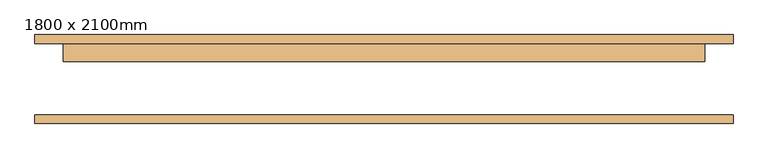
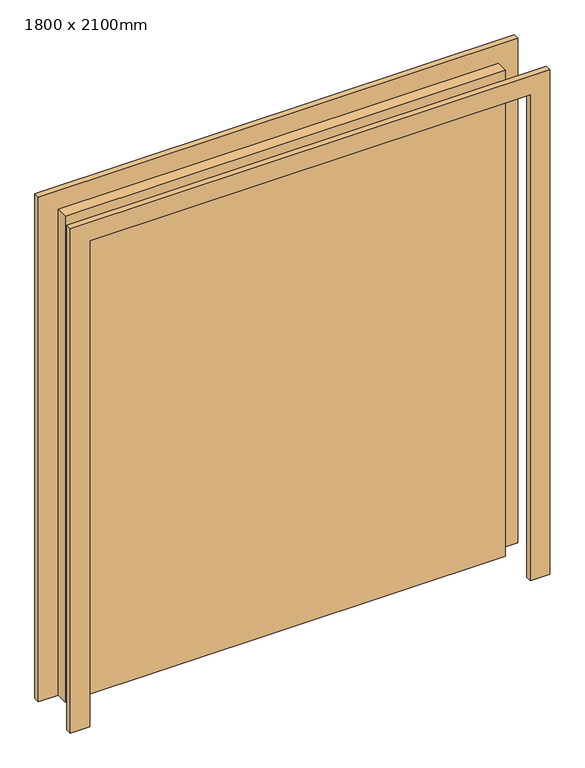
"""IFC4 building model written with IfcOpenShell, lengths in millimetres: door geometry, Дверь-Двойная-Щитовая_Панель-Двустороняя : 1800 x 2100mm."""

from ifc_helpers import new_model, si_unit, frame, origin, origin_with_axes, place, context, project, spatial, polyline, outline, extrude, source, transform, mapped, element, save


def door_1800_x_2100mm_41258359(model_context):
    return source(origin(), model_context, "Body", "SweptSolid", [
        extrude(outline(polyline([(2180.0, -980.0), (0.0, -980.0), (0.0, -900.0), (2100.0, -900.0), (2100.0, 900.0), (0.0, 900.0), (0.0, 980.0), (2180.0, 980.0), (2180.0, -980.0)])), frame((0.0, 100.0, 0.0), z_axis=(0.0, 1.0, 0.0), x_axis=(0.0, 0.0, 1.0)), (0.0, 0.0, 1.0), 25.0),
        extrude(outline(polyline([(2100.0, -900.0), (2100.0, 900.0), (0.0, 900.0), (0.0, 980.0), (2180.0, 980.0), (2180.0, -980.0), (0.0, -980.0), (0.0, -900.0), (2100.0, -900.0)])), frame((0.0, -125.0, 0.0), z_axis=(0.0, 1.0, 0.0), x_axis=(0.0, 0.0, 1.0)), (0.0, 0.0, 1.0), 25.0),
        extrude(outline(polyline([(-900.0, 100.0), (900.0, 100.0), (900.0, 50.0), (-900.0, 50.0), (-900.0, 100.0)])), origin_with_axes(), (0.0, 0.0, 1.0), 2100.0),
    ])


if __name__ == "__main__":
    model = new_model("IFC4")
    model_context = context("Model", 3, world=origin())
    ifc_project = project(units=[si_unit("LENGTHUNIT", "METRE", prefix="MILLI")], contexts=[model_context])
    site = spatial("IfcSite", under=ifc_project)
    building = spatial("IfcBuilding", under=site)
    placement = place(None, origin())
    door_1800_x_2100mm_shape = door_1800_x_2100mm_41258359(model_context)
    element("IfcDoor", 1, ObjectType="Дверь-Двойная-Щитовая_Панель-Двустороняя : 1800 x 2100mm", at=placement, inside=building, context=model_context, shape_type="MappedRepresentation", body=[
        mapped(door_1800_x_2100mm_shape, transform((0.0, 0.0, 0.0), x_axis=(1.0, 0.0, 0.0), y_axis=(0.0, 1.0, 0.0), z_axis=(0.0, 0.0, 1.0))),
    ])
    save(model, "model.ifc")
